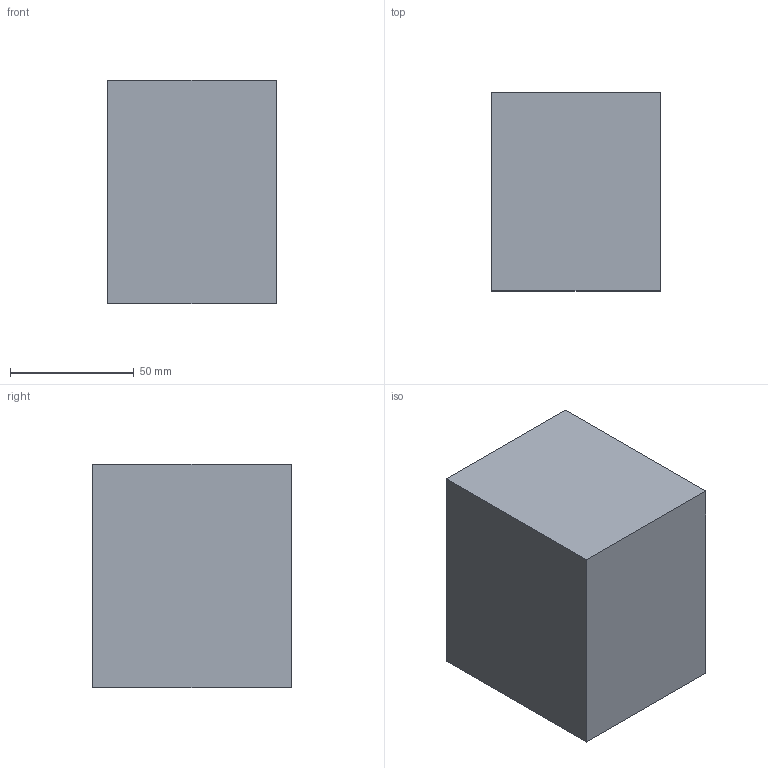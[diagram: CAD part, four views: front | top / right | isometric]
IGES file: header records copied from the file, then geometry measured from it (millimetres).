
Start section: SolidWorks IGES file using analytic representation for surfaces
Global section: file name: C:\Users\danielet\Desktop\3Ds\OKRA-A2041-3D\OKRA-A2041-3D.IGS; native system: SolidWorks 2018; preprocessor: SolidWorks 2018; author: danielet; date: 210802.091118; units: millimetre
Bounding box: 68 x 80 x 90 mm (x, y, z)
Surface area: 37725.5 mm2 (no closed solid volume)
Topology: 0 solids, 0 shells, 12 faces, 296 edges, 296 vertices
Faces by surface type: bspline 8, revolution 4
